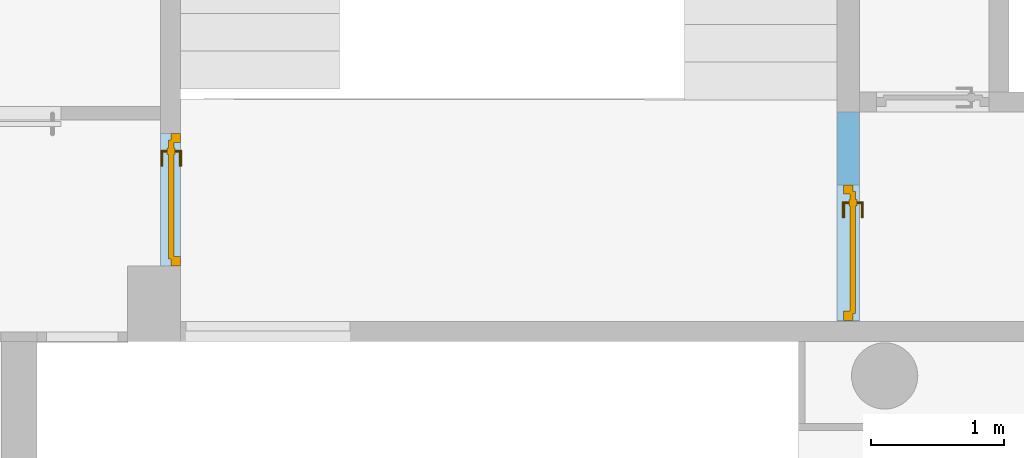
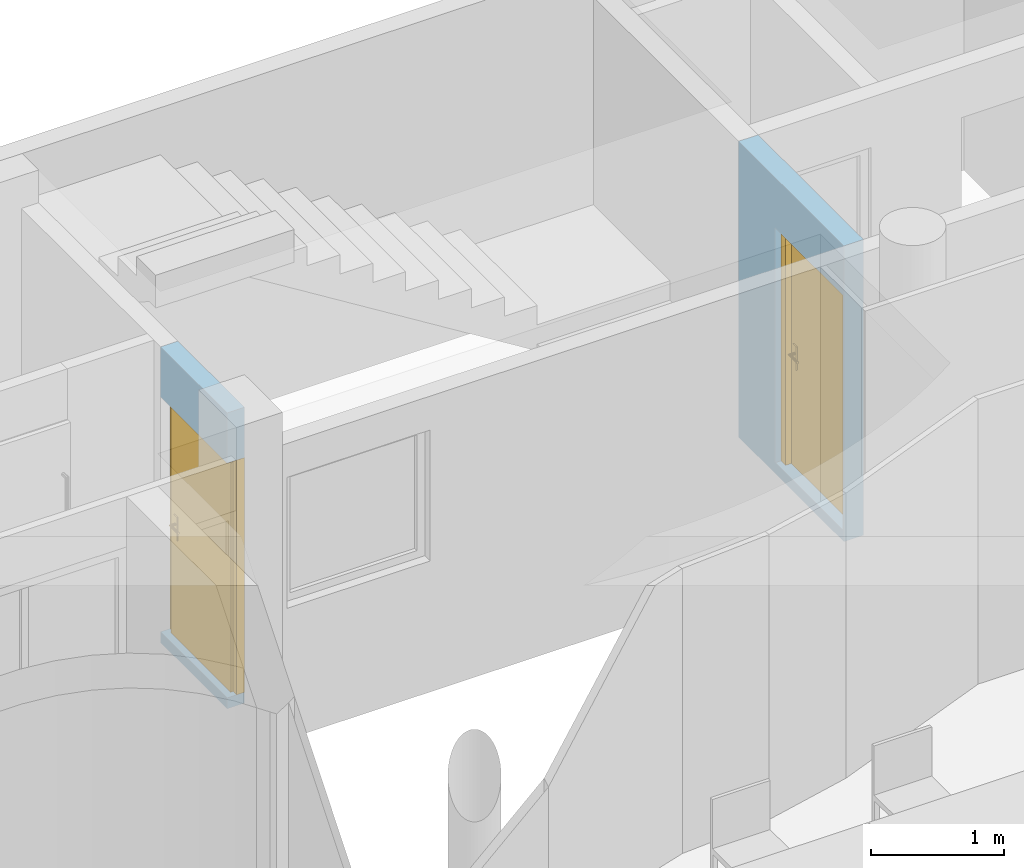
"""IFC4 building model written with IfcOpenShell, lengths in metres."""

import ifcopenshell
import ifcopenshell.guid

model = None  # the IFC model being written
_history = None  # IfcOwnerHistory: only IFC2X3 demands one
_inside = {}  # id of a spatial element -> (the spatial element, [elements in it])
_under = {}  # id of a project, library or spatial element -> (it, [spatial elements below it])
_declared = {}  # id of a project -> (the project, [libraries it declares])
_typed = {}  # id of a type object -> (the type object, [elements of that type])
_made_of = {}  # id of a material, layer set ... -> (it, [elements and type objects made of it])


def new_model(schema):
    """Start an empty IFC model of exactly this schema.

    Asked for "IFC4X3", IfcOpenShell would pick the latest addendum, in which some entities
    have other attributes; the version numbers below select the first issue.
    IFC2X3 requires an IfcOwnerHistory on every rooted entity: one is made here for all.
    """
    global model, _history
    if schema == "IFC4X3":
        model = ifcopenshell.file(schema_version=(4, 3, 0, 0))
    else:
        model = ifcopenshell.file(schema=schema)
    _inside.clear()
    _under.clear()
    _declared.clear()
    _typed.clear()
    _made_of.clear()
    _history = None
    if model.schema == "IFC2X3":
        org = make("IfcOrganization", Name="unknown")
        user = make(
            "IfcPersonAndOrganization",
            ThePerson=make("IfcPerson", FamilyName="unknown"),
            TheOrganization=org,
        )
        app = make(
            "IfcApplication",
            ApplicationDeveloper=org,
            Version="unknown",
            ApplicationFullName="unknown",
            ApplicationIdentifier="unknown",
        )
        _history = make(
            "IfcOwnerHistory",
            OwningUser=user,
            OwningApplication=app,
            ChangeAction="ADDED",
            CreationDate=0,
        )
    return model


def make(cls, **values):
    """One entity of the class cls with the attributes given. An attribute that is None is left unset."""
    return model.create_entity(
        cls, **{name: value for name, value in values.items() if value is not None}
    )


def entity(cls, *values):
    """Any entity or typed value of the class cls, its attributes in the order of the schema. None: left unset."""
    e = model.create_entity(cls)
    for i, value in enumerate(values):
        if value is not None:
            e[i] = value
    return e


def rooted(cls, **values):
    """An entity with a GlobalId (a new one), such as an element, a storey or a relation."""
    return make(cls, GlobalId=ifcopenshell.guid.new(), OwnerHistory=_history, **values)


def si_unit(unit_type, name, prefix=None):
    """IfcSIUnit, for example si_unit("LENGTHUNIT", "METRE", prefix="MILLI")."""
    return make("IfcSIUnit", UnitType=unit_type, Prefix=prefix, Name=name)


def converted_unit(unit_type, name, factor, base, dimensions=None, offset=None):
    """IfcConversionBasedUnit, such as the inch: factor (a typed value) times the base unit."""
    return make(
        "IfcConversionBasedUnit"
        if offset is None
        else "IfcConversionBasedUnitWithOffset",
        ConversionOffset=offset,
        Dimensions=None
        if dimensions is None
        else entity("IfcDimensionalExponents", *dimensions),
        UnitType=unit_type,
        Name=name,
        ConversionFactor=make(
            "IfcMeasureWithUnit", ValueComponent=factor, UnitComponent=base
        ),
    )


def derived_unit(unit_type, elements):
    """IfcDerivedUnit: a product of units, each with its exponent."""
    return make(
        "IfcDerivedUnit",
        Elements=[
            make("IfcDerivedUnitElement", Unit=unit, Exponent=power)
            for unit, power in elements
        ],
        UnitType=unit_type,
    )


def assignment(units):
    """IfcUnitAssignment: the units of a project."""
    return None if units is None else make("IfcUnitAssignment", Units=units)


def point(xyz):
    """IfcCartesianPoint."""
    return None if xyz is None else make("IfcCartesianPoint", Coordinates=xyz)


def direction(xyz):
    """IfcDirection."""
    return None if xyz is None else make("IfcDirection", DirectionRatios=xyz)


def frame(location, z_axis=None, x_axis=None):
    """IfcAxis2Placement3D, a coordinate frame: its origin and axes. An axis left out is left unset."""
    return make(
        "IfcAxis2Placement3D",
        Location=point(location),
        Axis=direction(z_axis),
        RefDirection=direction(x_axis),
    )


def frame_2d(location, x_axis=None):
    """IfcAxis2Placement2D, a coordinate frame in the plane: its origin and x axis."""
    return make(
        "IfcAxis2Placement2D", Location=point(location), RefDirection=direction(x_axis)
    )


def origin():
    """The frame at (0, 0, 0) with its axes left unset."""
    return frame((0.0, 0.0, 0.0))


def origin_with_axes():
    """The frame at (0, 0, 0) with the z axis (0, 0, 1) and the x axis (1, 0, 0) written out."""
    return frame((0.0, 0.0, 0.0), z_axis=(0.0, 0.0, 1.0), x_axis=(1.0, 0.0, 0.0))


def place(relative_to, where):
    """IfcLocalPlacement: puts the frame where relative to a parent placement (None: the world)."""
    return make(
        "IfcLocalPlacement", PlacementRelTo=relative_to, RelativePlacement=where
    )


def context(
    kind, dimensions, precision=None, world=None, true_north=None, identifier=None
):
    """IfcGeometricRepresentationContext, for example the 3D "Model" context."""
    return make(
        "IfcGeometricRepresentationContext",
        ContextIdentifier=identifier,
        ContextType=kind,
        CoordinateSpaceDimension=dimensions,
        Precision=precision,
        WorldCoordinateSystem=world,
        TrueNorth=true_north,
    )


def subcontext(parent, identifier, kind, view, scale=None):
    """IfcGeometricRepresentationSubContext, for example "Body" below "Model"."""
    return make(
        "IfcGeometricRepresentationSubContext",
        ContextIdentifier=identifier,
        ContextType=kind,
        ParentContext=parent,
        TargetScale=scale,
        TargetView=view,
    )


def project(units=None, contexts=None):
    """IfcProject with its units and contexts."""
    return rooted(
        "IfcProject",
        Name="project",
        RepresentationContexts=contexts,
        UnitsInContext=assignment(units),
    )


def spatial(cls, under=None, at=None, **own):
    """A site, building, storey or space (cls), placed at a placement, below another one or the project."""
    s = rooted(cls, ObjectPlacement=at, **own)
    if under is not None:
        _under.setdefault(under.id(), (under, []))[1].append(s)
    return s


def polyline(points):
    """IfcPolyline through the points."""
    return make("IfcPolyline", Points=[point(p) for p in points])


def profile(cls, at=None, kind="AREA", **sizes):
    """A parametric profile (cls). Its sizes go by their IFC names, for example OverallWidth=200.0."""
    return make(cls, ProfileType=kind, Position=at, **sizes)


def rectangle(**sizes):
    """IfcRectangleProfileDef."""
    return profile("IfcRectangleProfileDef", **sizes)


def outline(outer, holes=None, kind="AREA"):
    """IfcArbitraryClosedProfileDef: a profile drawn as a closed curve; with holes, ...WithVoids."""
    if holes is None:
        return make("IfcArbitraryClosedProfileDef", ProfileType=kind, OuterCurve=outer)
    return make(
        "IfcArbitraryProfileDefWithVoids",
        ProfileType=kind,
        OuterCurve=outer,
        InnerCurves=holes,
    )


def extrude(swept, where, along, depth):
    """IfcExtrudedAreaSolid: the profile swept, set in the frame where, extruded along a direction by depth."""
    return make(
        "IfcExtrudedAreaSolid",
        SweptArea=swept,
        Position=where,
        ExtrudedDirection=direction(along),
        Depth=depth,
    )


def faces_of(points, faces, orient=None, outer=None):
    """IfcFace entities. A face is a list of loops; a loop is a list of indices into points, from 0.

    orient and outer hold one flag for each loop. By default every Orientation is true, the
    first loop of a face is its IfcFaceOuterBound and the others are IfcFaceBound.
    """
    made = []
    for i, loops in enumerate(faces):
        bounds = []
        for j, loop in enumerate(loops):
            is_outer = j == 0 if outer is None else outer[i][j]
            bounds.append(
                make(
                    "IfcFaceOuterBound" if is_outer else "IfcFaceBound",
                    Bound=make("IfcPolyLoop", Polygon=[points[k] for k in loop]),
                    Orientation=True if orient is None else orient[i][j],
                )
            )
        made.append(make("IfcFace", Bounds=bounds))
    return made


def faceted_brep(points, faces, orient=None, outer=None, voids=None):
    """IfcFacetedBrep: a solid bounded by flat faces; with voids (closed shells), ...WithVoids."""
    shared = [point(p) for p in points]
    hull = make("IfcClosedShell", CfsFaces=faces_of(shared, faces, orient, outer))
    if voids is None:
        return make("IfcFacetedBrep", Outer=hull)
    return make(
        "IfcFacetedBrepWithVoids",
        Outer=hull,
        Voids=[
            make(cls, CfsFaces=faces_of(shared, fs, o, b)) for cls, fs, o, b in voids
        ],
    )


def shape(context_of_items, identifier, shape_type, items):
    """IfcShapeRepresentation: the items that make up one representation, for example the "Body"."""
    return make(
        "IfcShapeRepresentation",
        ContextOfItems=context_of_items,
        RepresentationIdentifier=identifier,
        RepresentationType=shape_type,
        Items=items,
    )


def source(mapping_origin, context_of_items, identifier, shape_type, items):
    """IfcRepresentationMap: a shape defined once, which mapped items show again and again."""
    return make(
        "IfcRepresentationMap",
        MappingOrigin=mapping_origin,
        MappedRepresentation=shape(context_of_items, identifier, shape_type, items),
    )


def transform(
    local_origin,
    x_axis=None,
    y_axis=None,
    z_axis=None,
    scale=None,
    scale2=None,
    scale3=None,
    uniform=True,
):
    """IfcCartesianTransformationOperator3D, or its non-uniform kind. x_axis, y_axis, z_axis: its Axis1, 2, 3."""
    if uniform:
        return make(
            "IfcCartesianTransformationOperator3D",
            Axis1=direction(x_axis),
            Axis2=direction(y_axis),
            LocalOrigin=point(local_origin),
            Scale=scale,
            Axis3=direction(z_axis),
        )
    return make(
        "IfcCartesianTransformationOperator3DnonUniform",
        Axis1=direction(x_axis),
        Axis2=direction(y_axis),
        LocalOrigin=point(local_origin),
        Scale=scale,
        Axis3=direction(z_axis),
        Scale2=scale2,
        Scale3=scale3,
    )


def mapped(mapping_source, mapping_target):
    """IfcMappedItem: shows the shape of a source again, moved by a transform."""
    return make(
        "IfcMappedItem", MappingSource=mapping_source, MappingTarget=mapping_target
    )


def material(Name=None, Category=None):
    """IfcMaterial."""
    return make("IfcMaterial", Name=Name, Category=Category)


def layer(
    of_material, thickness, ventilated=None, Name=None, Category=None, Priority=None
):
    """IfcMaterialLayer: one layer of a wall or slab, of a material (None: an air gap)."""
    return make(
        "IfcMaterialLayer",
        Material=of_material,
        LayerThickness=thickness,
        IsVentilated=ventilated,
        Name=Name,
        Category=Category,
        Priority=Priority,
    )


def layer_set(layers, Name=None):
    """IfcMaterialLayerSet."""
    return make("IfcMaterialLayerSet", MaterialLayers=layers, LayerSetName=Name)


def layer_usage(for_layer_set, set_direction, sense, offset, extent=None):
    """IfcMaterialLayerSetUsage: how a layer set lies in its element."""
    return make(
        "IfcMaterialLayerSetUsage",
        ForLayerSet=for_layer_set,
        LayerSetDirection=set_direction,
        DirectionSense=sense,
        OffsetFromReferenceLine=offset,
        ReferenceExtent=extent,
    )


def made_of(thing, what):
    """Note that an element or type object is made of a material, layer set ...; save() writes the relation."""
    if what is not None:
        _made_of.setdefault(what.id(), (what, []))[1].append(thing)
    return thing


def element(
    cls,
    number,
    at=None,
    inside=None,
    cuts=None,
    type_object=None,
    material=None,
    context=None,
    identifier="Body",
    shape_type=None,
    held_by="IfcProductDefinitionShape",
    body=None,
    shapes=None,
    **own,
):
    """One element of the class cls, such as IfcWall. Its Tag is "e" and its number.

    at: its placement. inside: the storey or other place that contains it. cuts: it is an
    opening in that element (IfcRelVoidsElement). A single representation is given by context,
    identifier, shape_type and body (its items); several are given by shapes. held_by: the class
    of the entity that holds the representations. save() writes the other relations.
    """
    e = rooted(cls, Tag="e%d" % number, ObjectPlacement=at, **own)
    if body is not None:
        shapes = [shape(context, identifier, shape_type, body)]
    if shapes is not None:
        e.Representation = make(held_by, Representations=shapes)
    if inside is not None:
        _inside.setdefault(inside.id(), (inside, []))[1].append(e)
    if cuts is not None:
        rooted(
            "IfcRelVoidsElement", RelatingBuildingElement=cuts, RelatedOpeningElement=e
        )
    if type_object is not None:
        _typed.setdefault(type_object.id(), (type_object, []))[1].append(e)
    return made_of(e, material)


def fill(opening, filler):
    """IfcRelFillsElement: the door or window that sits in an opening."""
    return rooted(
        "IfcRelFillsElement",
        RelatingOpeningElement=opening,
        RelatedBuildingElement=filler,
    )


def aggregate(whole, parts):
    """IfcRelAggregates: a whole, such as a stair, and the parts it consists of."""
    return rooted("IfcRelAggregates", RelatingObject=whole, RelatedObjects=parts)


def save(model, path):
    """Write the relations noted so far, then the file.

    IfcRelAggregates (storeys below a building ...), IfcRelContainedInSpatialStructure (elements
    in a storey), IfcRelDefinesByType, IfcRelAssociatesMaterial and IfcRelDeclares: one each for
    every whole, place, type object, material and project.
    """
    for whole, parts in _under.values():
        aggregate(whole, parts)
    for where, things in _inside.values():
        rooted(
            "IfcRelContainedInSpatialStructure",
            RelatedElements=things,
            RelatingStructure=where,
        )
    for kind, things in _typed.values():
        rooted("IfcRelDefinesByType", RelatedObjects=things, RelatingType=kind)
    for what, things in _made_of.values():
        rooted("IfcRelAssociatesMaterial", RelatedObjects=things, RelatingMaterial=what)
    for by, libraries in _declared.values():
        rooted("IfcRelDeclares", RelatingContext=by, RelatedDefinitions=libraries)
    model.write(path)


model = new_model("IFC4")

# Units and contexts
model_context = context("Model", 3, precision=1e-05, world=origin())
body_context = subcontext(model_context, "Body", "Model", "MODEL_VIEW")
ifc_project = project(units=[si_unit("LENGTHUNIT", "METRE"), si_unit("AREAUNIT", "SQUARE_METRE"), si_unit("VOLUMEUNIT", "CUBIC_METRE"), si_unit("MASSUNIT", "GRAM", prefix="KILO"), converted_unit("PLANEANGLEUNIT", "DEGREE", entity("IfcPlaneAngleMeasure", 0.0174532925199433), si_unit("PLANEANGLEUNIT", "RADIAN"), dimensions=[0, 0, 0, 0, 0, 0, 0]), derived_unit("THERMALTRANSMITTANCEUNIT", [(si_unit("POWERUNIT", "WATT"), 1), (si_unit("THERMODYNAMICTEMPERATUREUNIT", "KELVIN"), -1), (si_unit("LENGTHUNIT", "METRE"), -2)]), derived_unit("VOLUMETRICFLOWRATEUNIT", [(si_unit("LENGTHUNIT", "METRE"), 3), (converted_unit("TIMEUNIT", "hour", entity("IfcTimeMeasure", 3600.0), si_unit("TIMEUNIT", "SECOND"), dimensions=[0, 0, 1, 0, 0, 0, 0]), -1), (si_unit("LENGTHUNIT", "METRE"), -1)])], contexts=[model_context])

# Building, storeys
building_placement = place(None, origin())
building = spatial("IfcBuilding", under=ifc_project, at=building_placement, Name="HABITATGE PLURIFAMILIAR", CompositionType="ELEMENT")
storey_1_placement = place(building_placement, frame((0.0, 0.0, 15.28)))
storey_1 = spatial("IfcBuildingStorey", under=building, at=storey_1_placement, Name="PLANTA QUARTA", CompositionType="ELEMENT", Elevation=15.28)
storey_2_placement = place(storey_1_placement, frame((0.0, 0.0, 12.27)))
storey_2 = spatial("IfcBuildingStorey", under=storey_1, at=storey_2_placement, Name="NOU", CompositionType="PARTIAL")

# Wall, opening, door
ifc_material_1 = material()
ifc_layer_1 = layer(ifc_material_1, 0.15)
ifc_layer_set_1 = layer_set([ifc_layer_1])
ifc_layer_usage_1 = layer_usage(ifc_layer_set_1, "AXIS2", "POSITIVE", 0.0)
wall_1_placement = place(storey_2_placement, frame((410.826984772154, 24.7294598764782, -12.37), z_axis=(0.0, 0.0, 1.0), x_axis=(0.0, 1.0, 0.0)))
wall_1 = element("IfcWall", 1, at=wall_1_placement, inside=storey_2, material=ifc_layer_usage_1, Name="Evans P4", context=body_context, shape_type="SweptSolid", body=[
    extrude(rectangle(XDim=1.00000000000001, YDim=0.15, at=frame_2d((0.500000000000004, 0.075), x_axis=(1.0, 0.0))), origin_with_axes(), (0.0, 0.0, 1.0), 2.71),
])
opening_1_placement = place(wall_1_placement, frame((0.0, 0.0, 0.1), z_axis=(0.0, 1.0, 0.0), x_axis=(0.0, 0.0, 1.0)))
opening_1 = element("IfcOpeningElement", 2, at=opening_1_placement, cuts=wall_1, Name="Vano porta P4", ObjectType="Opening", context=body_context, shape_type="SweptSolid", body=[
    extrude(outline(polyline([(2.15, 1.00000000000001), (2.15, 0.0), (0.0, 0.0), (0.0, 1.00000000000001), (2.15, 1.00000000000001)])), origin_with_axes(), (0.0, 0.0, 1.0), 0.15),
])
shared_shape_1 = source(origin_with_axes(), body_context, "Body", "Brep", [
    faceted_brep([(1.00000000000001, 0.03, 2.15), (0.930000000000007, 0.03, 2.15), (0.930000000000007, 0.03, 0.0), (1.00000000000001, 0.03, 0.0), (1.00000000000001, -0.04, 0.0), (0.930000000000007, -0.04, 0.0), (0.930000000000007, -0.04, 2.15), (1.00000000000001, -0.04, 2.15)], [[[0, 1, 2, 3]], [[4, 5, 6, 7]], [[3, 4, 7, 0]], [[2, 5, 4, 3]], [[1, 6, 5, 2]], [[0, 7, 6, 1]]], orient=[[False], [False], [False], [False], [False], [False]]),
    faceted_brep([(0.07, 0.03, 2.15), (0.0, 0.03, 2.15), (0.0, 0.03, 0.0), (0.07, 0.03, 0.0), (0.07, -0.04, 0.0), (0.0, -0.04, 0.0), (0.0, -0.04, 2.15), (0.07, -0.04, 2.15)], [[[0, 1, 2, 3]], [[4, 5, 6, 7]], [[3, 4, 7, 0]], [[2, 5, 4, 3]], [[1, 6, 5, 2]], [[0, 7, 6, 1]]], orient=[[False], [False], [False], [False], [False], [False]]),
    faceted_brep([(0.930000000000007, 0.03, 2.15), (0.07, 0.03, 2.15), (0.07, 0.03, 2.08), (0.930000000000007, 0.03, 2.08), (0.930000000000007, -0.04, 2.08), (0.07, -0.04, 2.08), (0.07, -0.04, 2.15), (0.930000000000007, -0.04, 2.15)], [[[0, 1, 2, 3]], [[4, 5, 6, 7]], [[3, 4, 7, 0]], [[2, 5, 4, 3]], [[1, 6, 5, 2]], [[0, 7, 6, 1]]], orient=[[False], [False], [False], [False], [False], [False]]),
    faceted_brep([(0.950000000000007, 0.05, 2.1), (0.05, 0.05, 2.1), (0.05, 0.05, 0.0), (0.950000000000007, 0.05, 0.0), (0.950000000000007, 0.01, 0.0), (0.05, 0.01, 0.0), (0.05, 0.01, 2.1), (0.950000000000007, 0.01, 2.1)], [[[0, 1, 2, 3]], [[4, 5, 6, 7]], [[3, 4, 7, 0]], [[2, 5, 4, 3]], [[1, 6, 5, 2]], [[0, 7, 6, 1]]], orient=[[False], [False], [False], [False], [False], [False]]),
    faceted_brep([(0.890000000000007, 0.01, 1.125), (0.840000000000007, 0.01, 1.125), (0.840000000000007, 0.01, 0.91), (0.890000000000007, 0.01, 0.91), (0.890000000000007, 0.0, 0.91), (0.840000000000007, 0.0, 0.91), (0.840000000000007, 0.0, 1.125), (0.890000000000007, 0.0, 1.125)], [[[0, 1, 2, 3]], [[4, 5, 6, 7]], [[3, 4, 7, 0]], [[2, 5, 4, 3]], [[1, 6, 5, 2]], [[0, 7, 6, 1]]], orient=[[False], [False], [False], [False], [False], [False]]),
    faceted_brep([(0.865000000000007, 0.0, 1.06), (0.860000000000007, 0.0, 1.05866025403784), (0.856339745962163, 0.0, 1.055), (0.855000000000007, 0.0, 1.05), (0.856339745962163, 0.0, 1.045), (0.860000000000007, 0.0, 1.04133974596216), (0.865000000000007, 0.0, 1.04), (0.870000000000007, 0.0, 1.04133974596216), (0.873660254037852, 0.0, 1.045), (0.875000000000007, 0.0, 1.05), (0.873660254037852, 0.0, 1.055), (0.870000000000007, 0.0, 1.05866025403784), (0.870000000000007, -0.045, 1.05866025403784), (0.865000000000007, -0.04, 1.06), (0.873660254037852, -0.0486602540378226, 1.055), (0.875000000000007, -0.05, 1.05), (0.873660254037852, -0.0486602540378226, 1.045), (0.870000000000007, -0.045, 1.04133974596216), (0.865000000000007, -0.04, 1.04), (0.860000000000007, -0.035, 1.04133974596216), (0.856339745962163, -0.0313397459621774, 1.045), (0.855000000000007, -0.03, 1.05), (0.856339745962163, -0.0313397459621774, 1.055), (0.860000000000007, -0.035, 1.05866025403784), (0.750000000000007, -0.04, 1.06), (0.750000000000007, -0.045, 1.05866025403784), (0.750000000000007, -0.0486602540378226, 1.055), (0.750000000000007, -0.05, 1.05), (0.750000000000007, -0.0486602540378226, 1.045), (0.750000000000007, -0.045, 1.04133974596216), (0.750000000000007, -0.04, 1.04), (0.750000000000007, -0.035, 1.04133974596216), (0.750000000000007, -0.0313397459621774, 1.045), (0.750000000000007, -0.03, 1.05), (0.750000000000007, -0.0313397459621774, 1.055), (0.750000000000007, -0.035, 1.05866025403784)], [[[0, 1, 2, 3, 4, 5, 6, 7, 8, 9, 10, 11]], [[0, 11, 12, 13]], [[11, 10, 14, 12]], [[10, 9, 15, 14]], [[9, 8, 16, 15]], [[8, 7, 17, 16]], [[7, 6, 18, 17]], [[6, 5, 19, 18]], [[5, 4, 20, 19]], [[4, 3, 21, 20]], [[3, 2, 22, 21]], [[2, 1, 23, 22]], [[1, 0, 13, 23]], [[24, 25, 26, 27, 28, 29, 30, 31, 32, 33, 34, 35]], [[13, 12, 25, 24]], [[12, 14, 26, 25]], [[14, 15, 27, 26]], [[15, 16, 28, 27]], [[16, 17, 29, 28]], [[17, 18, 30, 29]], [[18, 19, 31, 30]], [[19, 20, 32, 31]], [[20, 21, 33, 32]], [[21, 22, 34, 33]], [[22, 23, 35, 34]], [[23, 13, 24, 35]]], orient=[[False], [False], [False], [False], [False], [False], [False], [False], [False], [False], [False], [False], [False], [False], [False], [False], [False], [False], [False], [False], [False], [False], [False], [False], [False], [False]]),
    faceted_brep([(0.890000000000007, 0.05, 1.125), (0.890000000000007, 0.05, 0.91), (0.840000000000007, 0.05, 0.91), (0.840000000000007, 0.05, 1.125), (0.890000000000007, 0.06, 0.91), (0.890000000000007, 0.06, 1.125), (0.840000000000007, 0.06, 1.125), (0.840000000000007, 0.06, 0.91)], [[[0, 1, 2, 3]], [[4, 5, 6, 7]], [[1, 0, 5, 4]], [[2, 1, 4, 7]], [[3, 2, 7, 6]], [[0, 3, 6, 5]]], orient=[[False], [False], [False], [False], [False], [False]]),
    faceted_brep([(0.865000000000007, 0.06, 1.06), (0.870000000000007, 0.06, 1.05866025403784), (0.873660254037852, 0.06, 1.055), (0.875000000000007, 0.06, 1.05), (0.873660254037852, 0.06, 1.045), (0.870000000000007, 0.06, 1.04133974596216), (0.865000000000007, 0.06, 1.04), (0.860000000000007, 0.06, 1.04133974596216), (0.856339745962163, 0.06, 1.045), (0.855000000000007, 0.06, 1.05), (0.856339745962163, 0.06, 1.055), (0.860000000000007, 0.06, 1.05866025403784), (0.865000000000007, 0.1, 1.06), (0.870000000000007, 0.105, 1.05866025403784), (0.873660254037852, 0.108660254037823, 1.055), (0.875000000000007, 0.11, 1.05), (0.873660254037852, 0.108660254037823, 1.045), (0.870000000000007, 0.105, 1.04133974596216), (0.865000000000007, 0.1, 1.04), (0.860000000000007, 0.095, 1.04133974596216), (0.856339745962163, 0.0913397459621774, 1.045), (0.855000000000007, 0.09, 1.05), (0.856339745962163, 0.0913397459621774, 1.055), (0.860000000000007, 0.095, 1.05866025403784), (0.750000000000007, 0.1, 1.06), (0.750000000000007, 0.095, 1.05866025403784), (0.750000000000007, 0.0913397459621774, 1.055), (0.750000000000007, 0.09, 1.05), (0.750000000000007, 0.0913397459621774, 1.045), (0.750000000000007, 0.095, 1.04133974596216), (0.750000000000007, 0.1, 1.04), (0.750000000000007, 0.105, 1.04133974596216), (0.750000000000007, 0.108660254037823, 1.045), (0.750000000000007, 0.11, 1.05), (0.750000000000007, 0.108660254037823, 1.055), (0.750000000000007, 0.105, 1.05866025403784)], [[[0, 1, 2, 3, 4, 5, 6, 7, 8, 9, 10, 11]], [[0, 12, 13, 1]], [[1, 13, 14, 2]], [[2, 14, 15, 3]], [[3, 15, 16, 4]], [[4, 16, 17, 5]], [[5, 17, 18, 6]], [[6, 18, 19, 7]], [[7, 19, 20, 8]], [[8, 20, 21, 9]], [[9, 21, 22, 10]], [[10, 22, 23, 11]], [[11, 23, 12, 0]], [[24, 25, 26, 27, 28, 29, 30, 31, 32, 33, 34, 35]], [[12, 24, 35, 13]], [[13, 35, 34, 14]], [[14, 34, 33, 15]], [[15, 33, 32, 16]], [[16, 32, 31, 17]], [[17, 31, 30, 18]], [[18, 30, 29, 19]], [[19, 29, 28, 20]], [[20, 28, 27, 21]], [[21, 27, 26, 22]], [[22, 26, 25, 23]], [[23, 25, 24, 12]]], orient=[[False], [False], [False], [False], [False], [False], [False], [False], [False], [False], [False], [False], [False], [False], [False], [False], [False], [False], [False], [False], [False], [False], [False], [False], [False], [False]]),
])
door_1_placement = place(opening_1_placement, frame((0.0, 0.0, 0.04), z_axis=(1.0, 0.0, 0.0), x_axis=(0.0, 1.0, 0.0)))
door_1 = element("IfcDoor", 3, at=door_1_placement, inside=storey_2, Name="Porta P4", OperationType="USERDEFINED", OverallHeight=2.15, OverallWidth=1.0, PredefinedType="DOOR", context=body_context, shape_type="MappedRepresentation", body=[
    mapped(shared_shape_1, transform((0.0, 0.0, 0.0), x_axis=(1.0, 0.0, 0.0), y_axis=(0.0, 1.0, 0.0), z_axis=(0.0, 0.0, 1.0), scale=1.0)),
])
fill(opening_1, door_1)

ifc_material_2 = material()
ifc_layer_2 = layer(ifc_material_2, 0.17)
ifc_layer_set_2 = layer_set([ifc_layer_2])
ifc_layer_usage_2 = layer_usage(ifc_layer_set_2, "AXIS2", "POSITIVE", 0.0)
wall_2_placement = place(storey_2_placement, frame((415.776984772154, 25.8894598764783, -12.37), z_axis=(0.0, 0.0, 1.0), x_axis=(0.0, -1.0, 0.0)))
wall_2 = element("IfcWall", 4, at=wall_2_placement, inside=storey_2, material=ifc_layer_usage_2, Name="Evans P4", context=body_context, shape_type="SweptSolid", body=[
    extrude(rectangle(XDim=1.58000000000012, YDim=0.17, at=frame_2d((0.790000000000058, 0.085), x_axis=(1.0, 0.0))), origin_with_axes(), (0.0, 0.0, 1.0), 2.71),
])
opening_2_placement = place(wall_2_placement, frame((1.5706693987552, 0.17, 0.1), z_axis=(0.0, -1.0, 0.0), x_axis=(0.0, 0.0, 1.0)))
opening_2 = element("IfcOpeningElement", 5, at=opening_2_placement, cuts=wall_2, Name="Vano porta P4", ObjectType="Opening", context=body_context, shape_type="SweptSolid", body=[
    extrude(outline(polyline([(2.15, 1.0208737), (2.15, 0.0), (0.0, 0.0), (0.0, 1.0208737), (2.15, 1.0208737)])), origin_with_axes(), (0.0, 0.0, 1.0), 0.17),
])
shared_shape_2 = source(origin_with_axes(), body_context, "Body", "Brep", [
    faceted_brep([(0.0, 0.0699999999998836, 2.15), (0.0, 0.0699999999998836, 0.0), (0.0700000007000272, 0.0699999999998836, 0.0), (0.0700000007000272, 0.0699999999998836, 2.15), (0.0, 0.0, 0.0), (0.0, 0.0, 2.15), (0.0700000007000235, 0.0, 2.15), (0.0700000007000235, 0.0, 0.0)], [[[0, 1, 2, 3]], [[4, 5, 6, 7]], [[1, 0, 5, 4]], [[2, 1, 4, 7]], [[3, 2, 7, 6]], [[0, 3, 6, 5]]], orient=[[False], [False], [False], [False], [False], [False]]),
    faceted_brep([(0.950873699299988, 0.0699999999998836, 2.15), (0.950873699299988, 0.0699999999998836, 0.0), (1.02087370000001, 0.0699999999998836, 0.0), (1.02087370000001, 0.0699999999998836, 2.15), (0.950873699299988, 0.0, 0.0), (0.950873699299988, 0.0, 2.15), (1.02087370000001, 0.0, 2.15), (1.02087370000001, 0.0, 0.0)], [[[0, 1, 2, 3]], [[4, 5, 6, 7]], [[1, 0, 5, 4]], [[2, 1, 4, 7]], [[3, 2, 7, 6]], [[0, 3, 6, 5]]], orient=[[False], [False], [False], [False], [False], [False]]),
    faceted_brep([(0.0700000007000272, 0.0699999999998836, 2.15), (0.0700000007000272, 0.0699999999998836, 2.08), (0.950873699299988, 0.0699999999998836, 2.08), (0.950873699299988, 0.0699999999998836, 2.15), (0.0700000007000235, 0.0, 2.08), (0.0700000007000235, 0.0, 2.15), (0.950873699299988, 0.0, 2.15), (0.950873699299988, 0.0, 2.08)], [[[0, 1, 2, 3]], [[4, 5, 6, 7]], [[1, 0, 5, 4]], [[2, 1, 4, 7]], [[3, 2, 7, 6]], [[0, 3, 6, 5]]], orient=[[False], [False], [False], [False], [False], [False]]),
    faceted_brep([(0.050000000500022, 0.0899999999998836, 2.1), (0.050000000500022, 0.0899999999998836, 0.0), (0.970873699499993, 0.0899999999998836, 0.0), (0.970873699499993, 0.0899999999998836, 2.1), (0.050000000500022, 0.0499999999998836, 0.0), (0.050000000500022, 0.0499999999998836, 2.1), (0.970873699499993, 0.0499999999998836, 2.1), (0.970873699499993, 0.0499999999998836, 0.0)], [[[0, 1, 2, 3]], [[4, 5, 6, 7]], [[1, 0, 5, 4]], [[2, 1, 4, 7]], [[3, 2, 7, 6]], [[0, 3, 6, 5]]], orient=[[False], [False], [False], [False], [False], [False]]),
    faceted_brep([(0.110000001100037, 0.0499999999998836, 1.125), (0.110000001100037, 0.0499999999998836, 0.91), (0.160000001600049, 0.0499999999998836, 0.91), (0.160000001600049, 0.0499999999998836, 1.125), (0.110000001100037, 0.0399999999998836, 0.91), (0.110000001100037, 0.0399999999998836, 1.125), (0.160000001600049, 0.0399999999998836, 1.125), (0.160000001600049, 0.0399999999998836, 0.91)], [[[0, 1, 2, 3]], [[4, 5, 6, 7]], [[1, 0, 5, 4]], [[2, 1, 4, 7]], [[3, 2, 7, 6]], [[0, 3, 6, 5]]], orient=[[False], [False], [False], [False], [False], [False]]),
    faceted_brep([(0.135000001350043, 0.0399999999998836, 1.06), (0.130000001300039, 0.0399999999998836, 1.05866025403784), (0.126339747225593, 0.0399999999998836, 1.055), (0.125000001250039, 0.0399999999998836, 1.05), (0.126339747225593, 0.0399999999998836, 1.045), (0.130000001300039, 0.0399999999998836, 1.04133974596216), (0.135000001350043, 0.0399999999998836, 1.04), (0.140000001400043, 0.0399999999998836, 1.04133974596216), (0.14366025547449, 0.0399999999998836, 1.045), (0.145000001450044, 0.0399999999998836, 1.05), (0.14366025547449, 0.0399999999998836, 1.055), (0.140000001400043, 0.0399999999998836, 1.05866025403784), (0.135000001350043, 0.0, 1.06), (0.130000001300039, -0.00500000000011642, 1.05866025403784), (0.126339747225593, -0.00866025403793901, 1.055), (0.125000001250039, -0.0100000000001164, 1.05), (0.126339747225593, -0.00866025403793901, 1.045), (0.130000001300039, -0.00500000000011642, 1.04133974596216), (0.135000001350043, 0.0, 1.04), (0.140000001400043, 0.00499999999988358, 1.04133974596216), (0.14366025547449, 0.00866025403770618, 1.045), (0.145000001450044, 0.00999999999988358, 1.05), (0.14366025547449, 0.00866025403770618, 1.055), (0.140000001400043, 0.00499999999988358, 1.05866025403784), (0.25000000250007, 0.0, 1.06), (0.25000000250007, 0.00499999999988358, 1.05866025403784), (0.25000000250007, 0.00866025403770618, 1.055), (0.25000000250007, 0.00999999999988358, 1.05), (0.25000000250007, 0.00866025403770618, 1.045), (0.25000000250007, 0.00499999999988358, 1.04133974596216), (0.25000000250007, 0.0, 1.04), (0.25000000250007, -0.00500000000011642, 1.04133974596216), (0.25000000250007, -0.00866025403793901, 1.045), (0.25000000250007, -0.0100000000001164, 1.05), (0.25000000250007, -0.00866025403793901, 1.055), (0.25000000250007, -0.00500000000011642, 1.05866025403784)], [[[0, 1, 2, 3, 4, 5, 6, 7, 8, 9, 10, 11]], [[0, 12, 13, 1]], [[1, 13, 14, 2]], [[2, 14, 15, 3]], [[3, 15, 16, 4]], [[4, 16, 17, 5]], [[5, 17, 18, 6]], [[6, 18, 19, 7]], [[7, 19, 20, 8]], [[8, 20, 21, 9]], [[9, 21, 22, 10]], [[10, 22, 23, 11]], [[11, 23, 12, 0]], [[24, 25, 26, 27, 28, 29, 30, 31, 32, 33, 34, 35]], [[12, 24, 35, 13]], [[13, 35, 34, 14]], [[14, 34, 33, 15]], [[15, 33, 32, 16]], [[16, 32, 31, 17]], [[17, 31, 30, 18]], [[18, 30, 29, 19]], [[19, 29, 28, 20]], [[20, 28, 27, 21]], [[21, 27, 26, 22]], [[22, 26, 25, 23]], [[23, 25, 24, 12]]], orient=[[False], [False], [False], [False], [False], [False], [False], [False], [False], [False], [False], [False], [False], [False], [False], [False], [False], [False], [False], [False], [False], [False], [False], [False], [False], [False]]),
    faceted_brep([(0.110000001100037, 0.0899999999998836, 1.125), (0.160000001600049, 0.0899999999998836, 1.125), (0.160000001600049, 0.0899999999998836, 0.91), (0.110000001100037, 0.0899999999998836, 0.91), (0.110000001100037, 0.0999999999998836, 0.91), (0.160000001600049, 0.0999999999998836, 0.91), (0.160000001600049, 0.0999999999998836, 1.125), (0.110000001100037, 0.0999999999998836, 1.125)], [[[0, 1, 2, 3]], [[4, 5, 6, 7]], [[3, 4, 7, 0]], [[2, 5, 4, 3]], [[1, 6, 5, 2]], [[0, 7, 6, 1]]], orient=[[False], [False], [False], [False], [False], [False]]),
    faceted_brep([(0.135000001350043, 0.0999999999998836, 1.06), (0.140000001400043, 0.0999999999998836, 1.05866025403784), (0.14366025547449, 0.0999999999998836, 1.055), (0.145000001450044, 0.0999999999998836, 1.05), (0.14366025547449, 0.0999999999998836, 1.045), (0.140000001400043, 0.0999999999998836, 1.04133974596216), (0.135000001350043, 0.0999999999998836, 1.04), (0.130000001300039, 0.0999999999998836, 1.04133974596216), (0.126339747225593, 0.0999999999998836, 1.045), (0.125000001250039, 0.0999999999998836, 1.05), (0.126339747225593, 0.0999999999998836, 1.055), (0.130000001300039, 0.0999999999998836, 1.05866025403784), (0.130000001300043, 0.144999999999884, 1.05866025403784), (0.135000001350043, 0.139999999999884, 1.06), (0.126339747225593, 0.148660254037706, 1.055), (0.125000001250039, 0.149999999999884, 1.05), (0.126339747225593, 0.148660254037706, 1.045), (0.130000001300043, 0.144999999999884, 1.04133974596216), (0.135000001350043, 0.139999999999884, 1.04), (0.140000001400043, 0.134999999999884, 1.04133974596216), (0.14366025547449, 0.131339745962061, 1.045), (0.145000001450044, 0.129999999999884, 1.05), (0.14366025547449, 0.131339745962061, 1.055), (0.140000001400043, 0.134999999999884, 1.05866025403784), (0.25000000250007, 0.139999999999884, 1.06), (0.25000000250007, 0.144999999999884, 1.05866025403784), (0.25000000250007, 0.148660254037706, 1.055), (0.25000000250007, 0.149999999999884, 1.05), (0.25000000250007, 0.148660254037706, 1.045), (0.25000000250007, 0.144999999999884, 1.04133974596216), (0.25000000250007, 0.139999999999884, 1.04), (0.25000000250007, 0.134999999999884, 1.04133974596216), (0.25000000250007, 0.131339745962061, 1.045), (0.25000000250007, 0.129999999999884, 1.05), (0.25000000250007, 0.131339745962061, 1.055), (0.25000000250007, 0.134999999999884, 1.05866025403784)], [[[0, 1, 2, 3, 4, 5, 6, 7, 8, 9, 10, 11]], [[0, 11, 12, 13]], [[11, 10, 14, 12]], [[10, 9, 15, 14]], [[9, 8, 16, 15]], [[8, 7, 17, 16]], [[7, 6, 18, 17]], [[6, 5, 19, 18]], [[5, 4, 20, 19]], [[4, 3, 21, 20]], [[3, 2, 22, 21]], [[2, 1, 23, 22]], [[1, 0, 13, 23]], [[24, 25, 26, 27, 28, 29, 30, 31, 32, 33, 34, 35]], [[13, 12, 25, 24]], [[12, 14, 26, 25]], [[14, 15, 27, 26]], [[15, 16, 28, 27]], [[16, 17, 29, 28]], [[17, 18, 30, 29]], [[18, 19, 31, 30]], [[19, 20, 32, 31]], [[20, 21, 33, 32]], [[21, 22, 34, 33]], [[22, 23, 35, 34]], [[23, 13, 24, 35]]], orient=[[False], [False], [False], [False], [False], [False], [False], [False], [False], [False], [False], [False], [False], [False], [False], [False], [False], [False], [False], [False], [False], [False], [False], [False], [False], [False]]),
])
door_2_placement = place(opening_2_placement, frame((0.0, 1.0208737, 0.12), z_axis=(1.0, 0.0, 0.0), x_axis=(0.0, -1.0, 0.0)))
door_2 = element("IfcDoor", 6, at=door_2_placement, inside=storey_2, Name="Porta P4", OperationType="USERDEFINED", OverallHeight=2.15, OverallWidth=1.02087, PredefinedType="DOOR", context=body_context, shape_type="MappedRepresentation", body=[
    mapped(shared_shape_2, transform((0.0, 0.0, 0.0), x_axis=(1.0, 0.0, 0.0), y_axis=(0.0, 1.0, 0.0), z_axis=(0.0, 0.0, 1.0), scale=1.0)),
])
fill(opening_2, door_2)

save(model, "model.ifc")
